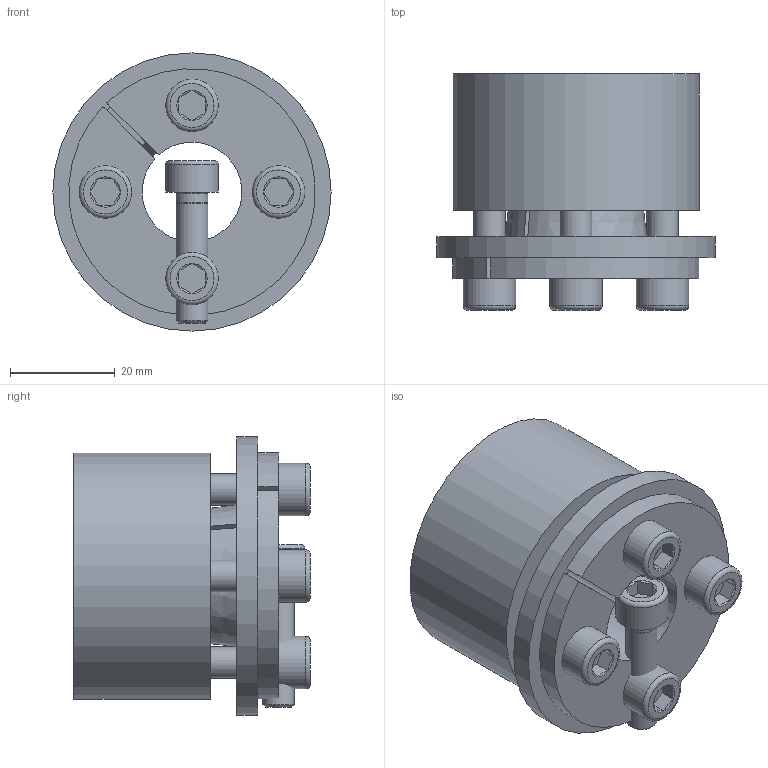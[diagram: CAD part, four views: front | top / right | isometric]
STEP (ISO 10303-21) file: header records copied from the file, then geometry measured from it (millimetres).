
FILE_DESCRIPTION( ( 'Unknown' ), '1' );
FILE_NAME( 'C:/Dokumente und Einstellungen/Sven/Desktop/homepage/cad - homepage/KBS71/KBS 71 - 19 x 47.stp', 'Unknown', ( 'Unknown' ), ( 'Unknown' ), 'XStep 1.0', 'Unknown', ' ' );
FILE_SCHEMA( ( 'automotive_design' ) );
Length unit declared in the file: millimetre
Products named in the file (3): Assem1; KBS 71 - 19 x 47; ISO EN DIN 4762 M6x25
Bounding box: 53 x 45 x 53 mm (x, y, z)
Volume: 101536 mm3; surface area: 38614.5 mm2
Topology: 7 solids, 7 shells, 189 faces, 423 edges, 256 vertices
Faces by surface type: plane 92, cylinder 44, cone 43, torus 10
Full cylindrical faces by diameter (mm): 5 x5, 6 x26, 10 x5, 53 x2
Entity records: 1911 total; most frequent: CARTESIAN_POINT 338, DIRECTION 287, ORIENTED_EDGE 240, EDGE_CURVE 120, AXIS2_PLACEMENT_3D 119, EDGE_LOOP 92, VERTEX_POINT 82, FACE_OUTER_BOUND 72
